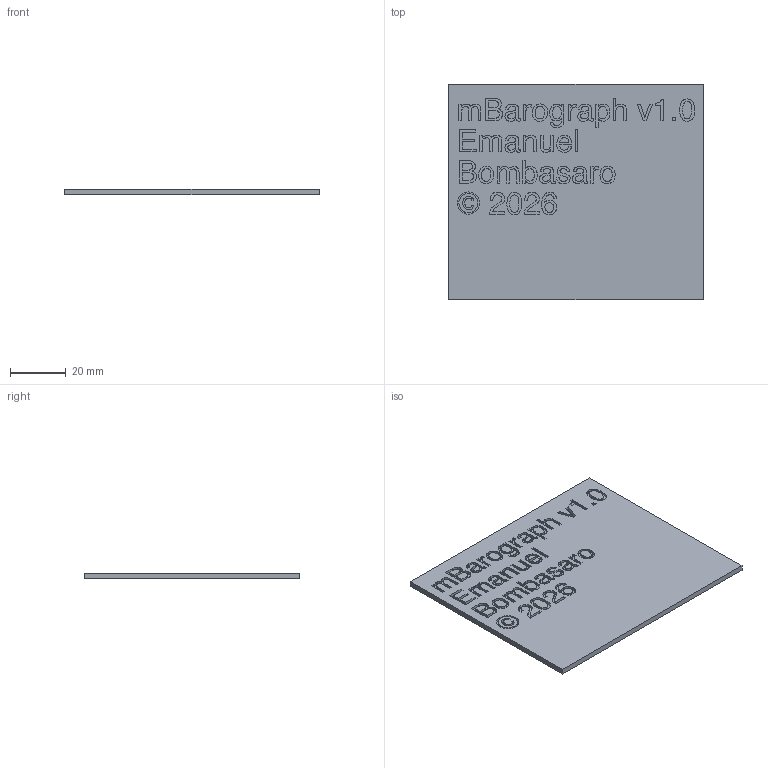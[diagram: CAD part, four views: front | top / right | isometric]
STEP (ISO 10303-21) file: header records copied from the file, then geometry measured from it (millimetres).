
FILE_DESCRIPTION(/* description */ (''),/* implementation_level */ '2;1');
FILE_NAME(/* name */ 'ScreenPanel.step',/* time_stamp */ '2026-02-24T15:27:42+03:00',/* author */ (''),/* organization */ (''),/* preprocessor_version */ 'ST-DEVELOPER v20.1',/* originating_system */ 'Autodesk Translation Framework v14.24.0.0',/* authorisation */ '');
FILE_SCHEMA (('AUTOMOTIVE_DESIGN { 1 0 10303 214 3 1 1 }'));
Length unit declared in the file: millimetre
Products named in the file (1): ScreenPanel
Bounding box: 91 x 77 x 2 mm (x, y, z)
Volume: 13453.9 mm3; surface area: 15932.8 mm2
Topology: 1 solids, 1 shells, 814 faces, 2268 edges, 1512 vertices
Faces by surface type: bspline 560, plane 254
Entity records: 31165 total; most frequent: CARTESIAN_POINT 14115, ORIENTED_EDGE 4536, EDGE_CURVE 2268, DIRECTION 1658, VERTEX_POINT 1512, LINE 1148, VECTOR 1148, B_SPLINE_CURVE_WITH_KNOTS 1120
